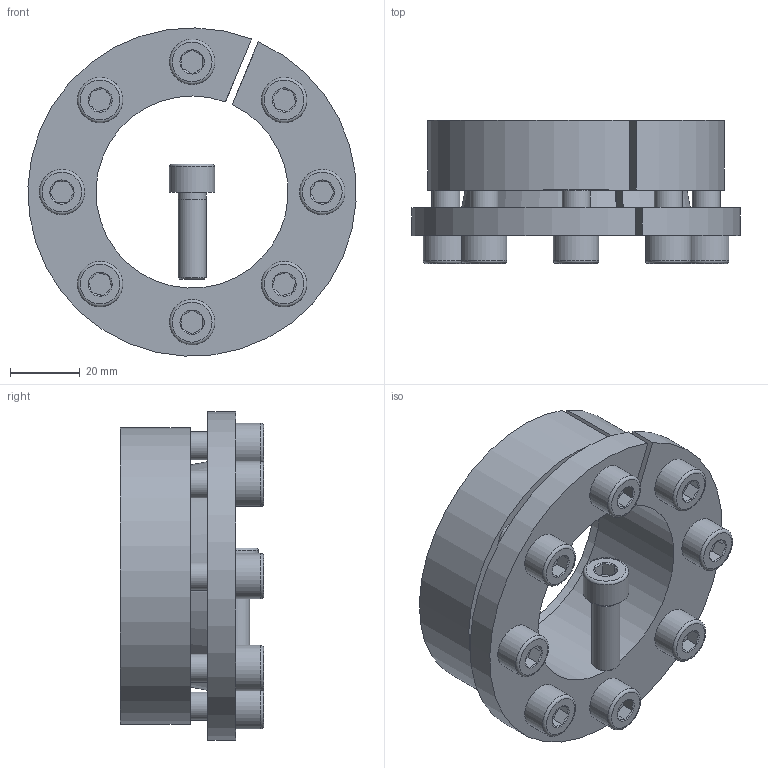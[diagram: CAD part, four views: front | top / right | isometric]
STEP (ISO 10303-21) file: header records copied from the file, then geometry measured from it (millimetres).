
FILE_DESCRIPTION( ( 'Unknown' ), '1' );
FILE_NAME( 'C:/Dokumente und Einstellungen/Sven/Desktop/homepage/cad - homepage/KBS16/KBS 16 - 55 x 85.stp', 'Unknown', ( 'Unknown' ), ( 'Unknown' ), 'XStep 1.0', 'Unknown', ' ' );
FILE_SCHEMA( ( 'automotive_design' ) );
Length unit declared in the file: millimetre
Products named in the file (3): Assem1; KBS 16 - 55 x 85; ISO EN DIN 4762 M8x25
Bounding box: 93.89 x 41 x 93.94 mm (x, y, z)
Volume: 208227.2 mm3; surface area: 78107.4 mm2
Topology: 11 solids, 11 shells, 281 faces, 557 edges, 334 vertices
Faces by surface type: plane 122, cylinder 74, cone 67, torus 18
Full cylindrical faces by diameter (mm): 7 x9, 8 x50, 13 x9
Entity records: 1798 total; most frequent: CARTESIAN_POINT 293, DIRECTION 272, ORIENTED_EDGE 194, AXIS2_PLACEMENT_3D 122, EDGE_LOOP 112, EDGE_CURVE 97, FACE_OUTER_BOUND 75, VERTEX_POINT 75
